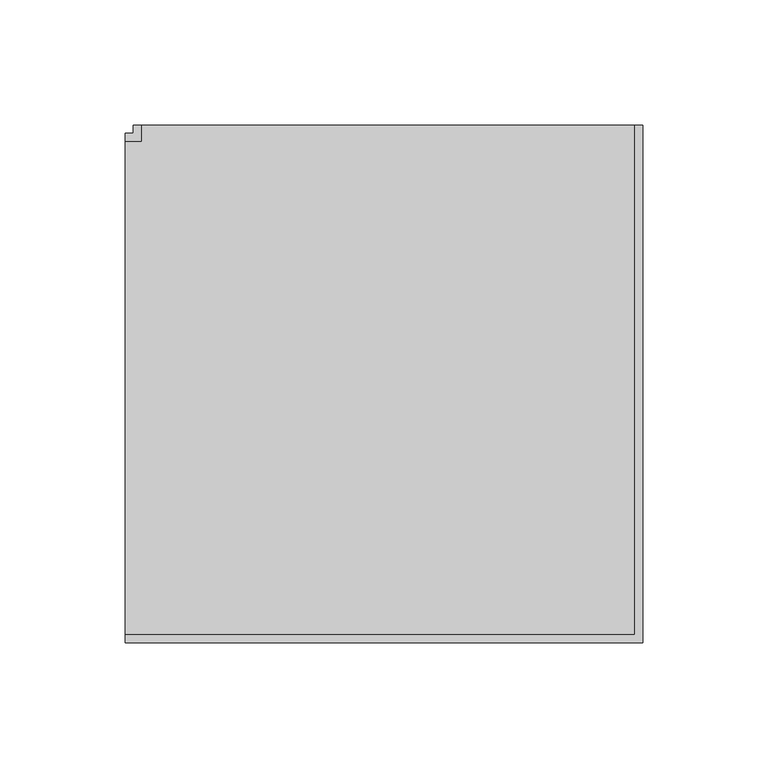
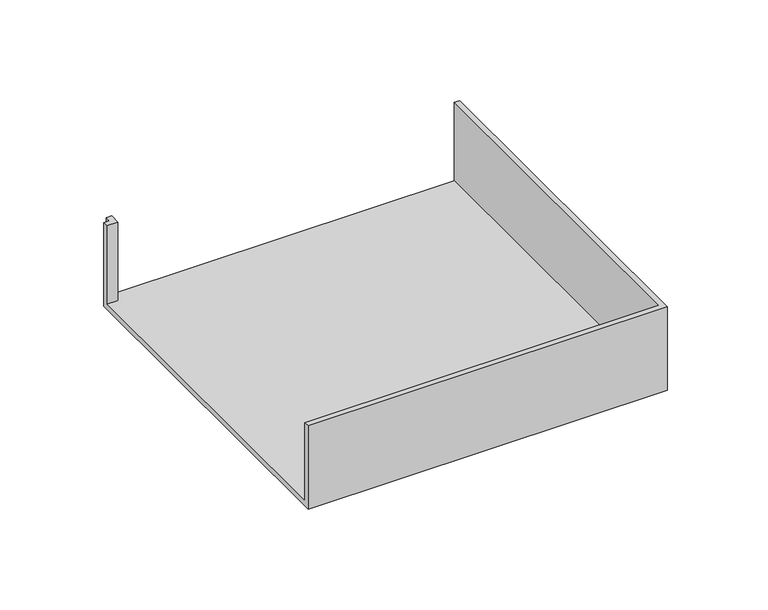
"""IFC4 building model written with IfcOpenShell, lengths in millimetres: cable carrier fitting geometry, Bend-Horizontal-Cablofil-Wire_Mesh_Cable_Tray : EZ T 90 KIT."""

from ifc_helpers import new_model, si_unit, origin, place, context, project, spatial, faceted_brep, source, transform, mapped, element, save


def cable_carrier_fitting_238cf4a7(model_context):
    return source(origin(), model_context, "Body", "Brep", [
        faceted_brep([(-104.775, -98.425, 25.4), (-104.775, -98.425, -22.225), (-104.775, 98.425, -22.225), (-104.775, 98.425, 25.4), (-104.775, 101.6, 25.4), (-104.775, 101.6, -25.4), (-104.775, -101.6, -25.4), (-104.775, -101.6, 25.4), (98.425, -98.425, 25.4), (98.425, -98.425, -22.225), (98.425, 104.775, -22.225), (-98.425, 104.775, -22.225), (-98.425, 98.425, -22.225), (-98.425, 98.425, 25.4), (-98.425, 104.775, 25.4), (-101.6, 104.775, 25.4), (-101.6, 101.6, 25.4), (-101.6, 101.6, -25.4), (-101.6, 104.775, -25.4), (101.6, 104.775, -25.4), (101.6, -101.6, -25.4), (101.6, -101.6, 25.4), (101.6, 104.775, 25.4), (98.425, 104.775, 25.4)], [[[0, 1, 2, 3, 4, 5, 6, 7]], [[1, 0, 8, 9]], [[2, 1, 9, 10, 11, 12]], [[3, 2, 12, 13]], [[4, 3, 13, 14, 15, 16]], [[5, 4, 16, 17]], [[6, 5, 17, 18, 19, 20]], [[7, 6, 20, 21]], [[0, 7, 21, 22, 23, 8]], [[23, 22, 19, 18, 15, 14, 11, 10]], [[9, 8, 23, 10]], [[13, 12, 11, 14]], [[17, 16, 15, 18]], [[21, 20, 19, 22]]]),
    ])


if __name__ == "__main__":
    model = new_model("IFC4")
    model_context = context("Model", 3, world=origin())
    ifc_project = project(units=[si_unit("LENGTHUNIT", "METRE", prefix="MILLI")], contexts=[model_context])
    site = spatial("IfcSite", under=ifc_project)
    building = spatial("IfcBuilding", under=site)
    placement = place(None, origin())
    cable_carrier_fitting_shape = cable_carrier_fitting_238cf4a7(model_context)
    element("IfcCableCarrierFitting", 1, ObjectType="Bend-Horizontal-Cablofil-Wire_Mesh_Cable_Tray : EZ T 90 KIT", at=placement, inside=building, context=model_context, shape_type="MappedRepresentation", body=[
        mapped(cable_carrier_fitting_shape, transform((0.0, 0.0, 0.0), x_axis=(1.0, 0.0, 0.0), y_axis=(0.0, 1.0, 0.0), z_axis=(0.0, 0.0, 1.0))),
    ])
    save(model, "model.ifc")
